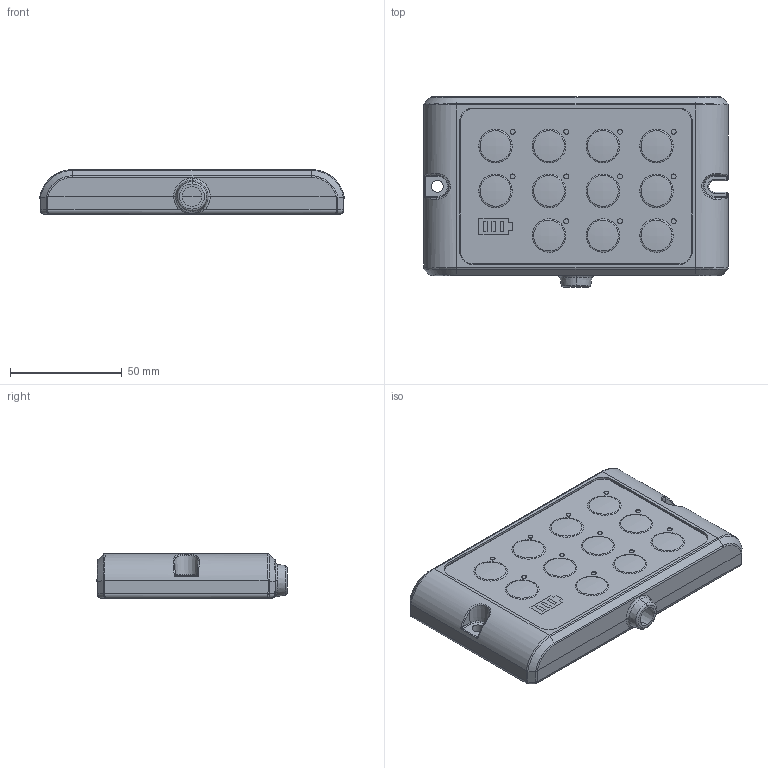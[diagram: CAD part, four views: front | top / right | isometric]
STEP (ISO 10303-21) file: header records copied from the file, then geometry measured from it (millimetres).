
FILE_DESCRIPTION (( 'STEP AP203' ), '1' );
FILE_NAME ('TNP3.STEP', '2010-10-07T03:01:34', ( 'Jeremy' ), ( '' ), 'SwSTEP 2.0', 'SolidWorks 2010', '' );
FILE_SCHEMA (( 'CONFIG_CONTROL_DESIGN' ));
Length unit declared in the file: millimetre
Products named in the file (3): TNP3; TNP3銘板_LAOUT
Assembly tree (2 placements, depth 2):
  TNP3
    TNP3銘板_LAOUT
    TNP3
Bounding box: 136 x 85 x 20 mm (x, y, z)
Volume: 68672.9 mm3; surface area: 67718.4 mm2
Topology: 2 solids, 2 shells, 249 faces, 619 edges, 382 vertices
Faces by surface type: bspline 82, cylinder 75, plane 65, torus 15, cone 10, sphere 2
Entity records: 22203 total; most frequent: CARTESIAN_POINT 16493, ORIENTED_EDGE 1218, DIRECTION 973, EDGE_CURVE 609, VERTEX_POINT 382, AXIS2_PLACEMENT_3D 377, EDGE_LOOP 291, FACE_OUTER_BOUND 249
